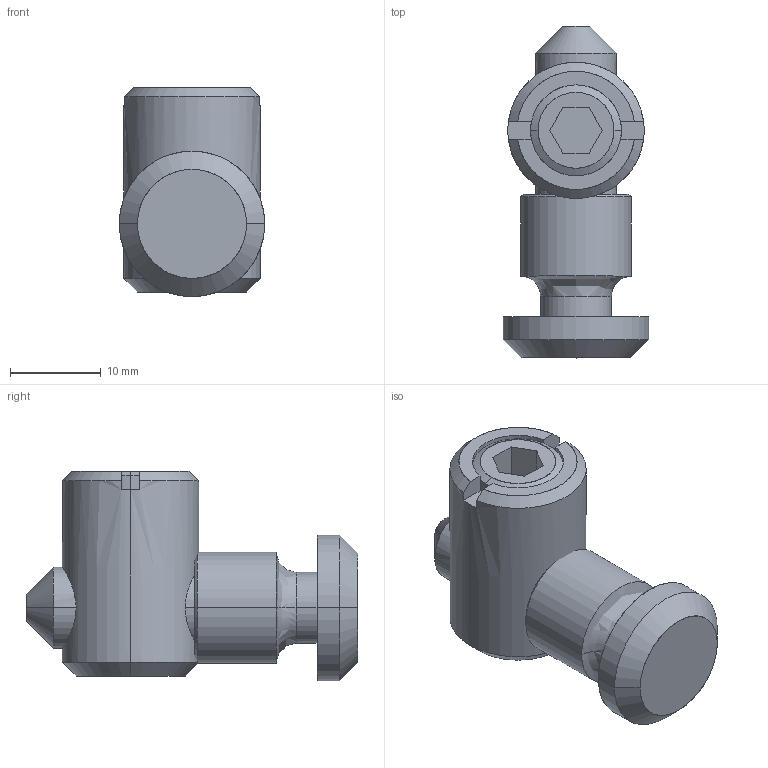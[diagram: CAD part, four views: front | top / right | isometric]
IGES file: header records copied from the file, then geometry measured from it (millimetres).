
Start section: SolidWorks IGES file using analytic representation for surfaces
Global section: file name: C:\Documents and Settings\Administrator\デスクトップ\指定保存後3回目\SolidWorks\SF\SF30\Bracket\KFジョイントキット\SFK-3K1.IGS; native system: SolidWorks 2006 by SolidWorks Corporation; preprocessor: SolidWorks 2006 by SolidWorks Corporation; author: Administrator; date: 061213.091639; units: millimetre
Bounding box: 16 x 36.5 x 23 mm (x, y, z)
Surface area: 5054.5 mm2 (no closed solid volume)
Topology: 0 solids, 0 shells, 75 faces, 1834 edges, 2170 vertices
Faces by surface type: revolution 46, bspline 29
